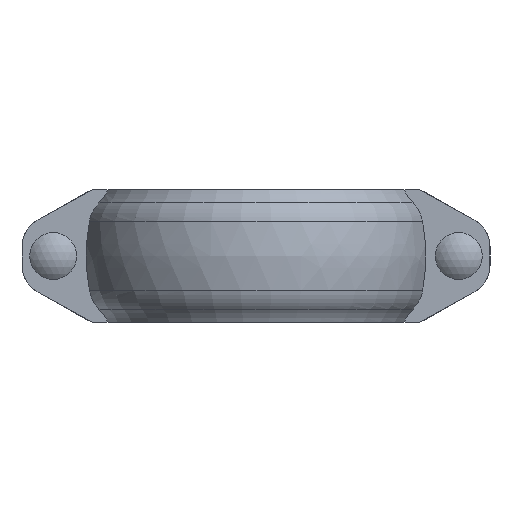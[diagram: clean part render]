
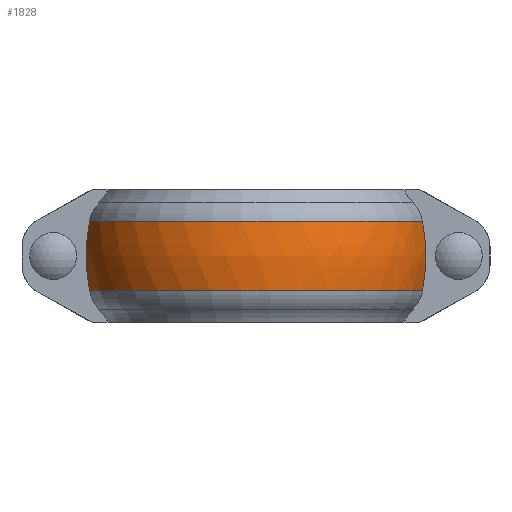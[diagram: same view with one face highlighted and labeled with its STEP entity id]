
A CAD part, front view. The second image highlights one B-rep face of the part: STEP entity #1828.
In plain terms, the highlighted free-form (B-spline) face has degree [2, 2] with [3, 5] control points.
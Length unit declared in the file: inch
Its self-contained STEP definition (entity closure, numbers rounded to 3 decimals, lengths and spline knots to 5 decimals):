
#27=(
BOUNDED_SURFACE()
B_SPLINE_SURFACE(2,2,((#3233,#3234,#3235,#3236,#3237),(#3238,#3239,#3240,
#3241,#3242),(#3243,#3244,#3245,#3246,#3247)),.UNSPECIFIED.,.F.,.F.,.F.)
B_SPLINE_SURFACE_WITH_KNOTS((3,3),(3,2,3),(-0.18782,0.18782),
(0.25497,1.5708,2.88662),.UNSPECIFIED.)
GEOMETRIC_REPRESENTATION_ITEM()
RATIONAL_B_SPLINE_SURFACE(((1.,0.791,1.,0.791,1.),
(0.982,0.777,0.982,0.777,
0.982),(1.,0.791,1.,0.791,1.)))
REPRESENTATION_ITEM('')
SURFACE()
);
#30=B_SPLINE_CURVE_WITH_KNOTS('',3,(#2994,#2995,#2996,#2997,#2998,#2999,
#3000,#3001,#3002,#3003),.UNSPECIFIED.,.F.,.F.,(4,2,2,2,4),(9.11237,
9.30207,10.45477,11.60746,11.79717),
 .UNSPECIFIED.);
#40=B_SPLINE_CURVE_WITH_KNOTS('',3,(#3108,#3109,#3110,#3111,#3112,#3113,
#3114,#3115,#3116,#3117),.UNSPECIFIED.,.F.,.F.,(4,2,2,2,4),(30.02191,
30.21161,31.36431,32.517,32.7067),
 .UNSPECIFIED.);
#232=FACE_OUTER_BOUND('',#341,.T.);
#341=EDGE_LOOP('',(#1613,#1614,#1615,#1616));
#688=CIRCLE('',#2044,2.76224);
#693=CIRCLE('',#2055,2.76224);
#839=VERTEX_POINT('',#2982);
#840=VERTEX_POINT('',#2993);
#854=VERTEX_POINT('',#3096);
#855=VERTEX_POINT('',#3107);
#1069=EDGE_CURVE('',#840,#839,#30,.T.);
#1090=EDGE_CURVE('',#855,#854,#40,.T.);
#1109=EDGE_CURVE('',#855,#839,#688,.T.);
#1114=EDGE_CURVE('',#854,#840,#693,.T.);
#1613=ORIENTED_EDGE('',*,*,#1069,.T.);
#1614=ORIENTED_EDGE('',*,*,#1109,.F.);
#1615=ORIENTED_EDGE('',*,*,#1090,.T.);
#1616=ORIENTED_EDGE('',*,*,#1114,.T.);
#1828=ADVANCED_FACE('',(#232),#27,.F.);
#2044=AXIS2_PLACEMENT_3D('',#3221,#2532,#2533);
#2055=AXIS2_PLACEMENT_3D('',#3232,#2554,#2555);
#2532=DIRECTION('center_axis',(0.,0.,-1.));
#2533=DIRECTION('ref_axis',(1.,0.,0.));
#2554=DIRECTION('center_axis',(0.,0.,-1.));
#2555=DIRECTION('ref_axis',(1.,0.,0.));
#2982=CARTESIAN_POINT('',(2.66943,0.71,-0.56017));
#2993=CARTESIAN_POINT('',(2.66943,0.71,0.56017));
#2994=CARTESIAN_POINT('Ctrl Pts',(2.66943,0.71,0.56017));
#2995=CARTESIAN_POINT('Ctrl Pts',(2.67467,0.71,0.53352));
#2996=CARTESIAN_POINT('Ctrl Pts',(2.67955,0.71,0.50675));
#2997=CARTESIAN_POINT('Ctrl Pts',(2.71138,0.71,0.31683));
#2998=CARTESIAN_POINT('Ctrl Pts',(2.72399,0.71,0.15127));
#2999=CARTESIAN_POINT('Ctrl Pts',(2.72399,0.71,-0.15127));
#3000=CARTESIAN_POINT('Ctrl Pts',(2.71138,0.71,-0.31683));
#3001=CARTESIAN_POINT('Ctrl Pts',(2.67955,0.71,-0.50675));
#3002=CARTESIAN_POINT('Ctrl Pts',(2.67467,0.71,-0.53352));
#3003=CARTESIAN_POINT('Ctrl Pts',(2.66943,0.71,-0.56017));
#3096=CARTESIAN_POINT('',(-2.66943,0.71,0.56017));
#3107=CARTESIAN_POINT('',(-2.66943,0.71,-0.56017));
#3108=CARTESIAN_POINT('Ctrl Pts',(-2.66943,0.71,-0.56017));
#3109=CARTESIAN_POINT('Ctrl Pts',(-2.67467,0.71,-0.53352));
#3110=CARTESIAN_POINT('Ctrl Pts',(-2.67955,0.71,-0.50675));
#3111=CARTESIAN_POINT('Ctrl Pts',(-2.71138,0.71,-0.31683));
#3112=CARTESIAN_POINT('Ctrl Pts',(-2.72399,0.71,-0.15127));
#3113=CARTESIAN_POINT('Ctrl Pts',(-2.72399,0.71,0.15127));
#3114=CARTESIAN_POINT('Ctrl Pts',(-2.71138,0.71,0.31683));
#3115=CARTESIAN_POINT('Ctrl Pts',(-2.67955,0.71,0.50675));
#3116=CARTESIAN_POINT('Ctrl Pts',(-2.67467,0.71,0.53352));
#3117=CARTESIAN_POINT('Ctrl Pts',(-2.66943,0.71,0.56017));
#3221=CARTESIAN_POINT('Origin',(0.,0.,-0.56017));
#3232=CARTESIAN_POINT('Origin',(0.,0.,0.56017));
#3233=CARTESIAN_POINT('Ctrl Pts',(-2.67293,0.69669,0.56017));
#3234=CARTESIAN_POINT('Ctrl Pts',(-2.13456,2.76224,0.56017));
#3235=CARTESIAN_POINT('Ctrl Pts',(0.,2.76224,0.56017));
#3236=CARTESIAN_POINT('Ctrl Pts',(2.13456,2.76224,0.56017));
#3237=CARTESIAN_POINT('Ctrl Pts',(2.67293,0.69669,0.56017));
#3238=CARTESIAN_POINT('Ctrl Pts',(-2.77596,0.72355,0.));
#3239=CARTESIAN_POINT('Ctrl Pts',(-2.21683,2.86871,0.));
#3240=CARTESIAN_POINT('Ctrl Pts',(0.,2.86871,0.));
#3241=CARTESIAN_POINT('Ctrl Pts',(2.21683,2.86871,0.));
#3242=CARTESIAN_POINT('Ctrl Pts',(2.77596,0.72355,0.));
#3243=CARTESIAN_POINT('Ctrl Pts',(-2.67293,0.69669,-0.56017));
#3244=CARTESIAN_POINT('Ctrl Pts',(-2.13456,2.76224,-0.56017));
#3245=CARTESIAN_POINT('Ctrl Pts',(0.,2.76224,-0.56017));
#3246=CARTESIAN_POINT('Ctrl Pts',(2.13456,2.76224,-0.56017));
#3247=CARTESIAN_POINT('Ctrl Pts',(2.67293,0.69669,-0.56017));
